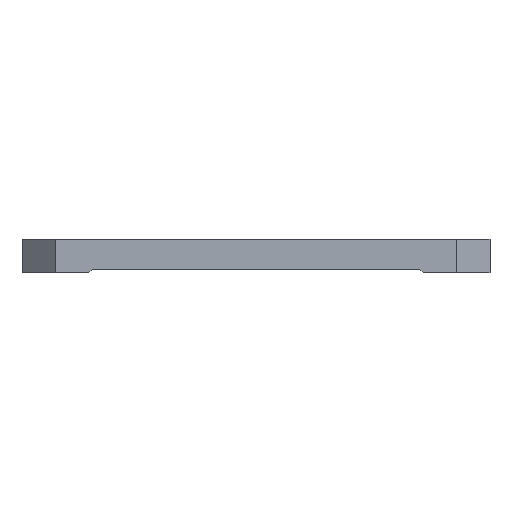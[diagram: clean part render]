
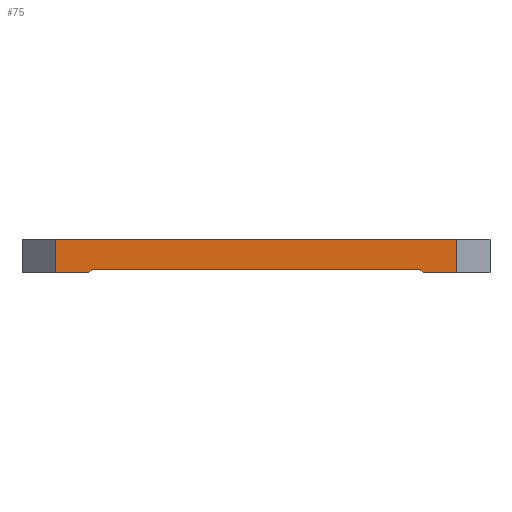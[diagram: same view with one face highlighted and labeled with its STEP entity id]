
A CAD part, left-side view. The second image highlights one B-rep face of the part: STEP entity #75.
In plain terms, the highlighted planar face has unit normal (-1, 0, 0).
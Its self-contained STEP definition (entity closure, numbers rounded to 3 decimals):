
#75 = ADVANCED_FACE( '', ( #126 ), #127, .T. );
#126 = FACE_OUTER_BOUND( '', #298, .T. );
#127 = PLANE( '', #299 );
#298 = EDGE_LOOP( '', ( #470, #471, #472, #473, #474, #475, #476, #477 ) );
#299 = AXIS2_PLACEMENT_3D( '', #478, #479, #480 );
#470 = ORIENTED_EDGE( '', *, *, #836, .T. );
#471 = ORIENTED_EDGE( '', *, *, #837, .T. );
#472 = ORIENTED_EDGE( '', *, *, #838, .T. );
#473 = ORIENTED_EDGE( '', *, *, #839, .T. );
#474 = ORIENTED_EDGE( '', *, *, #840, .T. );
#475 = ORIENTED_EDGE( '', *, *, #841, .T. );
#476 = ORIENTED_EDGE( '', *, *, #842, .T. );
#477 = ORIENTED_EDGE( '', *, *, #843, .T. );
#478 = CARTESIAN_POINT( '', ( -80., 0., -5. ) );
#479 = DIRECTION( '', ( -1., 0., 0. ) );
#480 = DIRECTION( '', ( 0., 0., 1. ) );
#836 = EDGE_CURVE( '', #944, #945, #946, .T. );
#837 = EDGE_CURVE( '', #945, #947, #948, .T. );
#838 = EDGE_CURVE( '', #947, #949, #950, .T. );
#839 = EDGE_CURVE( '', #949, #951, #952, .T. );
#840 = EDGE_CURVE( '', #951, #953, #954, .T. );
#841 = EDGE_CURVE( '', #953, #955, #956, .T. );
#842 = EDGE_CURVE( '', #955, #957, #958, .T. );
#843 = EDGE_CURVE( '', #957, #944, #959, .T. );
#944 = VERTEX_POINT( '', #1140 );
#945 = VERTEX_POINT( '', #1141 );
#946 = LINE( '', #1142, #1143 );
#947 = VERTEX_POINT( '', #1144 );
#948 = LINE( '', #1145, #1146 );
#949 = VERTEX_POINT( '', #1147 );
#950 = LINE( '', #1148, #1149 );
#951 = VERTEX_POINT( '', #1150 );
#952 = LINE( '', #1151, #1152 );
#953 = VERTEX_POINT( '', #1153 );
#954 = LINE( '', #1154, #1155 );
#955 = VERTEX_POINT( '', #1156 );
#956 = LINE( '', #1157, #1158 );
#957 = VERTEX_POINT( '', #1159 );
#958 = LINE( '', #1160, #1161 );
#959 = LINE( '', #1162, #1163 );
#1140 = CARTESIAN_POINT( '', ( -80., -60., 5. ) );
#1141 = CARTESIAN_POINT( '', ( -80., 60., 5. ) );
#1142 = CARTESIAN_POINT( '', ( -80., 0., 5. ) );
#1143 = VECTOR( '', #1388, 1000. );
#1144 = CARTESIAN_POINT( '', ( -80., 60., -5. ) );
#1145 = CARTESIAN_POINT( '', ( -80., 60., -5. ) );
#1146 = VECTOR( '', #1389, 1000. );
#1147 = CARTESIAN_POINT( '', ( -80., 50., -5. ) );
#1148 = CARTESIAN_POINT( '', ( -80., 0., -5. ) );
#1149 = VECTOR( '', #1390, 1000. );
#1150 = CARTESIAN_POINT( '', ( -80., 49., -4. ) );
#1151 = CARTESIAN_POINT( '', ( -80., 25., 20. ) );
#1152 = VECTOR( '', #1391, 1000. );
#1153 = CARTESIAN_POINT( '', ( -80., -49., -4. ) );
#1154 = CARTESIAN_POINT( '', ( -80., 0., -4. ) );
#1155 = VECTOR( '', #1392, 1000. );
#1156 = CARTESIAN_POINT( '', ( -80., -50., -5. ) );
#1157 = CARTESIAN_POINT( '', ( -80., -25., 20. ) );
#1158 = VECTOR( '', #1393, 1000. );
#1159 = CARTESIAN_POINT( '', ( -80., -60., -5. ) );
#1160 = CARTESIAN_POINT( '', ( -80., 0., -5. ) );
#1161 = VECTOR( '', #1394, 1000. );
#1162 = CARTESIAN_POINT( '', ( -80., -60., -5. ) );
#1163 = VECTOR( '', #1395, 1000. );
#1388 = DIRECTION( '', ( 0., 1., 0. ) );
#1389 = DIRECTION( '', ( 0., 0., -1. ) );
#1390 = DIRECTION( '', ( 0., -1., 0. ) );
#1391 = DIRECTION( '', ( 0., -0.707, 0.707 ) );
#1392 = DIRECTION( '', ( 0., -1., 0. ) );
#1393 = DIRECTION( '', ( 0., -0.707, -0.707 ) );
#1394 = DIRECTION( '', ( 0., -1., 0. ) );
#1395 = DIRECTION( '', ( 0., 0., 1. ) );
